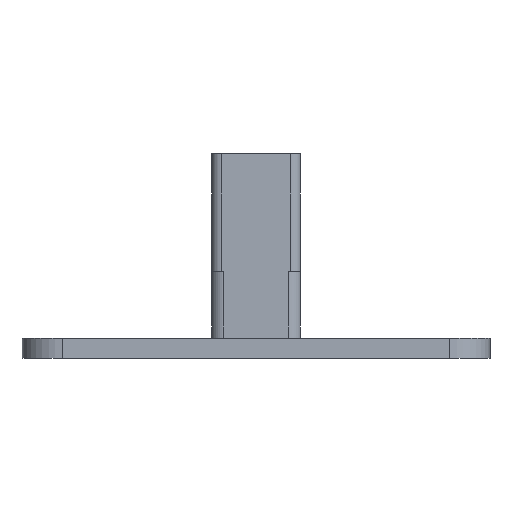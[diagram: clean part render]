
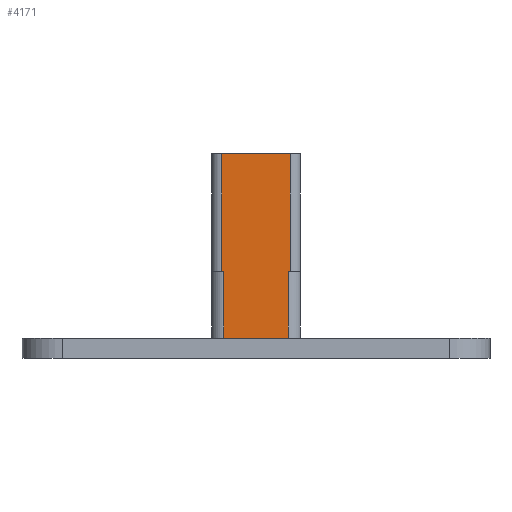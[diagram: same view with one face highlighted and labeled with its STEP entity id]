
A CAD part, left-side view. The second image highlights one B-rep face of the part: STEP entity #4171.
In plain terms, the highlighted planar face has unit normal (-1, 0, 0).
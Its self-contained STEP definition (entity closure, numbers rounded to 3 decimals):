
#44 = PLANE('',#45);
#45 = AXIS2_PLACEMENT_3D('',#46,#47,#48);
#46 = CARTESIAN_POINT('',(-128.,-58.,5.));
#47 = DIRECTION('',(0.,0.,1.));
#48 = DIRECTION('',(1.,0.,-0.));
#1351 = VERTEX_POINT('',#1352);
#1352 = CARTESIAN_POINT('',(-23.9,-8.,5.));
#1369 = CYLINDRICAL_SURFACE('',#1370,3.);
#1370 = AXIS2_PLACEMENT_3D('',#1371,#1372,#1373);
#1371 = CARTESIAN_POINT('',(-20.9,-8.,0.));
#1372 = DIRECTION('',(0.,0.,1.));
#1373 = DIRECTION('',(-1.,-0.,0.));
#1381 = EDGE_CURVE('',#1351,#1382,#1384,.T.);
#1382 = VERTEX_POINT('',#1383);
#1383 = CARTESIAN_POINT('',(-23.9,8.,5.));
#1384 = SURFACE_CURVE('',#1385,(#1389,#1395),.PCURVE_S1.);
#1385 = LINE('',#1386,#1387);
#1386 = CARTESIAN_POINT('',(-23.9,-34.5,5.));
#1387 = VECTOR('',#1388,1.);
#1388 = DIRECTION('',(-0.,1.,0.));
#1389 = PCURVE('',#44,#1390);
#1390 = DEFINITIONAL_REPRESENTATION('',(#1391),#1394);
#1391 = B_SPLINE_CURVE_WITH_KNOTS('',1,(#1392,#1393),.UNSPECIFIED.,.F.,
  .F.,(2,2),(26.5,42.5),.PIECEWISE_BEZIER_KNOTS.);
#1392 = CARTESIAN_POINT('',(104.1,50.));
#1393 = CARTESIAN_POINT('',(104.1,66.));
#1394 = ( GEOMETRIC_REPRESENTATION_CONTEXT(2) 
PARAMETRIC_REPRESENTATION_CONTEXT() REPRESENTATION_CONTEXT('2D SPACE',''
  ) );
#1395 = PCURVE('',#1396,#1401);
#1396 = PLANE('',#1397);
#1397 = AXIS2_PLACEMENT_3D('',#1398,#1399,#1400);
#1398 = CARTESIAN_POINT('',(-23.9,-11.,0.));
#1399 = DIRECTION('',(1.,0.,-0.));
#1400 = DIRECTION('',(0.,0.,1.));
#1401 = DEFINITIONAL_REPRESENTATION('',(#1402),#1406);
#1402 = LINE('',#1403,#1404);
#1403 = CARTESIAN_POINT('',(5.,23.5));
#1404 = VECTOR('',#1405,1.);
#1405 = DIRECTION('',(0.,-1.));
#1406 = ( GEOMETRIC_REPRESENTATION_CONTEXT(2) 
PARAMETRIC_REPRESENTATION_CONTEXT() REPRESENTATION_CONTEXT('2D SPACE',''
  ) );
#1425 = CYLINDRICAL_SURFACE('',#1426,3.);
#1426 = AXIS2_PLACEMENT_3D('',#1427,#1428,#1429);
#1427 = CARTESIAN_POINT('',(-20.9,8.,0.));
#1428 = DIRECTION('',(0.,0.,1.));
#1429 = DIRECTION('',(-1.,-0.,0.));
#2202 = PLANE('',#2203);
#2203 = AXIS2_PLACEMENT_3D('',#2204,#2205,#2206);
#2204 = CARTESIAN_POINT('',(-23.9,-11.,50.7));
#2205 = DIRECTION('',(0.,0.,1.));
#2206 = DIRECTION('',(1.,0.,0.));
#2600 = EDGE_CURVE('',#2601,#2603,#2605,.T.);
#2601 = VERTEX_POINT('',#2602);
#2602 = CARTESIAN_POINT('',(-23.9,-8.5,50.7));
#2603 = VERTEX_POINT('',#2604);
#2604 = CARTESIAN_POINT('',(-23.9,8.5,50.7));
#2605 = SURFACE_CURVE('',#2606,(#2610,#2617),.PCURVE_S1.);
#2606 = LINE('',#2607,#2608);
#2607 = CARTESIAN_POINT('',(-23.9,-11.,50.7));
#2608 = VECTOR('',#2609,1.);
#2609 = DIRECTION('',(0.,1.,0.));
#2610 = PCURVE('',#2202,#2611);
#2611 = DEFINITIONAL_REPRESENTATION('',(#2612),#2616);
#2612 = LINE('',#2613,#2614);
#2613 = CARTESIAN_POINT('',(0.,0.));
#2614 = VECTOR('',#2615,1.);
#2615 = DIRECTION('',(0.,1.));
#2616 = ( GEOMETRIC_REPRESENTATION_CONTEXT(2) 
PARAMETRIC_REPRESENTATION_CONTEXT() REPRESENTATION_CONTEXT('2D SPACE',''
  ) );
#2617 = PCURVE('',#1396,#2618);
#2618 = DEFINITIONAL_REPRESENTATION('',(#2619),#2623);
#2619 = LINE('',#2620,#2621);
#2620 = CARTESIAN_POINT('',(50.7,0.));
#2621 = VECTOR('',#2622,1.);
#2622 = DIRECTION('',(0.,-1.));
#2623 = ( GEOMETRIC_REPRESENTATION_CONTEXT(2) 
PARAMETRIC_REPRESENTATION_CONTEXT() REPRESENTATION_CONTEXT('2D SPACE',''
  ) );
#2642 = CYLINDRICAL_SURFACE('',#2643,2.5);
#2643 = AXIS2_PLACEMENT_3D('',#2644,#2645,#2646);
#2644 = CARTESIAN_POINT('',(-21.4,-8.5,21.5));
#2645 = DIRECTION('',(0.,0.,1.));
#2646 = DIRECTION('',(-1.,0.,0.));
#2793 = CYLINDRICAL_SURFACE('',#2794,2.5);
#2794 = AXIS2_PLACEMENT_3D('',#2795,#2796,#2797);
#2795 = CARTESIAN_POINT('',(-21.4,8.5,21.5));
#2796 = DIRECTION('',(0.,0.,1.));
#2797 = DIRECTION('',(-1.,0.,0.));
#2809 = VERTEX_POINT('',#2810);
#2810 = CARTESIAN_POINT('',(-23.9,-8.5,21.5));
#2827 = PLANE('',#2828);
#2828 = AXIS2_PLACEMENT_3D('',#2829,#2830,#2831);
#2829 = CARTESIAN_POINT('',(-23.9,-11.,21.5));
#2830 = DIRECTION('',(0.,0.,1.));
#2831 = DIRECTION('',(1.,0.,0.));
#2861 = EDGE_CURVE('',#2809,#2601,#2862,.T.);
#2862 = SURFACE_CURVE('',#2863,(#2867,#2874),.PCURVE_S1.);
#2863 = LINE('',#2864,#2865);
#2864 = CARTESIAN_POINT('',(-23.9,-8.5,21.5));
#2865 = VECTOR('',#2866,1.);
#2866 = DIRECTION('',(0.,0.,1.));
#2867 = PCURVE('',#2642,#2868);
#2868 = DEFINITIONAL_REPRESENTATION('',(#2869),#2873);
#2869 = LINE('',#2870,#2871);
#2870 = CARTESIAN_POINT('',(0.,0.));
#2871 = VECTOR('',#2872,1.);
#2872 = DIRECTION('',(0.,1.));
#2873 = ( GEOMETRIC_REPRESENTATION_CONTEXT(2) 
PARAMETRIC_REPRESENTATION_CONTEXT() REPRESENTATION_CONTEXT('2D SPACE',''
  ) );
#2874 = PCURVE('',#1396,#2875);
#2875 = DEFINITIONAL_REPRESENTATION('',(#2876),#2880);
#2876 = LINE('',#2877,#2878);
#2877 = CARTESIAN_POINT('',(21.5,-2.5));
#2878 = VECTOR('',#2879,1.);
#2879 = DIRECTION('',(1.,0.));
#2880 = ( GEOMETRIC_REPRESENTATION_CONTEXT(2) 
PARAMETRIC_REPRESENTATION_CONTEXT() REPRESENTATION_CONTEXT('2D SPACE',''
  ) );
#2885 = EDGE_CURVE('',#2809,#2886,#2888,.T.);
#2886 = VERTEX_POINT('',#2887);
#2887 = CARTESIAN_POINT('',(-23.9,-8.,21.5));
#2888 = SURFACE_CURVE('',#2889,(#2893,#2900),.PCURVE_S1.);
#2889 = LINE('',#2890,#2891);
#2890 = CARTESIAN_POINT('',(-23.9,-11.,21.5));
#2891 = VECTOR('',#2892,1.);
#2892 = DIRECTION('',(0.,1.,0.));
#2893 = PCURVE('',#2827,#2894);
#2894 = DEFINITIONAL_REPRESENTATION('',(#2895),#2899);
#2895 = LINE('',#2896,#2897);
#2896 = CARTESIAN_POINT('',(0.,0.));
#2897 = VECTOR('',#2898,1.);
#2898 = DIRECTION('',(0.,1.));
#2899 = ( GEOMETRIC_REPRESENTATION_CONTEXT(2) 
PARAMETRIC_REPRESENTATION_CONTEXT() REPRESENTATION_CONTEXT('2D SPACE',''
  ) );
#2900 = PCURVE('',#1396,#2901);
#2901 = DEFINITIONAL_REPRESENTATION('',(#2902),#2906);
#2902 = LINE('',#2903,#2904);
#2903 = CARTESIAN_POINT('',(21.5,0.));
#2904 = VECTOR('',#2905,1.);
#2905 = DIRECTION('',(0.,-1.));
#2906 = ( GEOMETRIC_REPRESENTATION_CONTEXT(2) 
PARAMETRIC_REPRESENTATION_CONTEXT() REPRESENTATION_CONTEXT('2D SPACE',''
  ) );
#3103 = VERTEX_POINT('',#3104);
#3104 = CARTESIAN_POINT('',(-23.9,8.5,21.5));
#3121 = PLANE('',#3122);
#3122 = AXIS2_PLACEMENT_3D('',#3123,#3124,#3125);
#3123 = CARTESIAN_POINT('',(-23.9,-11.,21.5));
#3124 = DIRECTION('',(0.,0.,1.));
#3125 = DIRECTION('',(1.,0.,0.));
#3159 = EDGE_CURVE('',#3103,#2603,#3160,.T.);
#3160 = SURFACE_CURVE('',#3161,(#3165,#3172),.PCURVE_S1.);
#3161 = LINE('',#3162,#3163);
#3162 = CARTESIAN_POINT('',(-23.9,8.5,21.5));
#3163 = VECTOR('',#3164,1.);
#3164 = DIRECTION('',(0.,0.,1.));
#3165 = PCURVE('',#2793,#3166);
#3166 = DEFINITIONAL_REPRESENTATION('',(#3167),#3171);
#3167 = LINE('',#3168,#3169);
#3168 = CARTESIAN_POINT('',(-0.,0.));
#3169 = VECTOR('',#3170,1.);
#3170 = DIRECTION('',(-0.,1.));
#3171 = ( GEOMETRIC_REPRESENTATION_CONTEXT(2) 
PARAMETRIC_REPRESENTATION_CONTEXT() REPRESENTATION_CONTEXT('2D SPACE',''
  ) );
#3172 = PCURVE('',#1396,#3173);
#3173 = DEFINITIONAL_REPRESENTATION('',(#3174),#3178);
#3174 = LINE('',#3175,#3176);
#3175 = CARTESIAN_POINT('',(21.5,-19.5));
#3176 = VECTOR('',#3177,1.);
#3177 = DIRECTION('',(1.,0.));
#3178 = ( GEOMETRIC_REPRESENTATION_CONTEXT(2) 
PARAMETRIC_REPRESENTATION_CONTEXT() REPRESENTATION_CONTEXT('2D SPACE',''
  ) );
#3183 = EDGE_CURVE('',#3184,#3103,#3186,.T.);
#3184 = VERTEX_POINT('',#3185);
#3185 = CARTESIAN_POINT('',(-23.9,8.,21.5));
#3186 = SURFACE_CURVE('',#3187,(#3191,#3198),.PCURVE_S1.);
#3187 = LINE('',#3188,#3189);
#3188 = CARTESIAN_POINT('',(-23.9,-11.,21.5));
#3189 = VECTOR('',#3190,1.);
#3190 = DIRECTION('',(0.,1.,0.));
#3191 = PCURVE('',#3121,#3192);
#3192 = DEFINITIONAL_REPRESENTATION('',(#3193),#3197);
#3193 = LINE('',#3194,#3195);
#3194 = CARTESIAN_POINT('',(0.,0.));
#3195 = VECTOR('',#3196,1.);
#3196 = DIRECTION('',(0.,1.));
#3197 = ( GEOMETRIC_REPRESENTATION_CONTEXT(2) 
PARAMETRIC_REPRESENTATION_CONTEXT() REPRESENTATION_CONTEXT('2D SPACE',''
  ) );
#3198 = PCURVE('',#1396,#3199);
#3199 = DEFINITIONAL_REPRESENTATION('',(#3200),#3204);
#3200 = LINE('',#3201,#3202);
#3201 = CARTESIAN_POINT('',(21.5,0.));
#3202 = VECTOR('',#3203,1.);
#3203 = DIRECTION('',(0.,-1.));
#3204 = ( GEOMETRIC_REPRESENTATION_CONTEXT(2) 
PARAMETRIC_REPRESENTATION_CONTEXT() REPRESENTATION_CONTEXT('2D SPACE',''
  ) );
#4113 = EDGE_CURVE('',#1382,#3184,#4114,.T.);
#4114 = SURFACE_CURVE('',#4115,(#4119,#4126),.PCURVE_S1.);
#4115 = LINE('',#4116,#4117);
#4116 = CARTESIAN_POINT('',(-23.9,8.,0.));
#4117 = VECTOR('',#4118,1.);
#4118 = DIRECTION('',(0.,0.,1.));
#4119 = PCURVE('',#1425,#4120);
#4120 = DEFINITIONAL_REPRESENTATION('',(#4121),#4125);
#4121 = LINE('',#4122,#4123);
#4122 = CARTESIAN_POINT('',(-0.,0.));
#4123 = VECTOR('',#4124,1.);
#4124 = DIRECTION('',(-0.,1.));
#4125 = ( GEOMETRIC_REPRESENTATION_CONTEXT(2) 
PARAMETRIC_REPRESENTATION_CONTEXT() REPRESENTATION_CONTEXT('2D SPACE',''
  ) );
#4126 = PCURVE('',#1396,#4127);
#4127 = DEFINITIONAL_REPRESENTATION('',(#4128),#4132);
#4128 = LINE('',#4129,#4130);
#4129 = CARTESIAN_POINT('',(0.,-19.));
#4130 = VECTOR('',#4131,1.);
#4131 = DIRECTION('',(1.,0.));
#4132 = ( GEOMETRIC_REPRESENTATION_CONTEXT(2) 
PARAMETRIC_REPRESENTATION_CONTEXT() REPRESENTATION_CONTEXT('2D SPACE',''
  ) );
#4171 = ADVANCED_FACE('',(#4172),#1396,.F.);
#4172 = FACE_BOUND('',#4173,.F.);
#4173 = EDGE_LOOP('',(#4174,#4175,#4176,#4177,#4178,#4179,#4180,#4201));
#4174 = ORIENTED_EDGE('',*,*,#4113,.T.);
#4175 = ORIENTED_EDGE('',*,*,#3183,.T.);
#4176 = ORIENTED_EDGE('',*,*,#3159,.T.);
#4177 = ORIENTED_EDGE('',*,*,#2600,.F.);
#4178 = ORIENTED_EDGE('',*,*,#2861,.F.);
#4179 = ORIENTED_EDGE('',*,*,#2885,.T.);
#4180 = ORIENTED_EDGE('',*,*,#4181,.F.);
#4181 = EDGE_CURVE('',#1351,#2886,#4182,.T.);
#4182 = SURFACE_CURVE('',#4183,(#4187,#4194),.PCURVE_S1.);
#4183 = LINE('',#4184,#4185);
#4184 = CARTESIAN_POINT('',(-23.9,-8.,0.));
#4185 = VECTOR('',#4186,1.);
#4186 = DIRECTION('',(0.,0.,1.));
#4187 = PCURVE('',#1396,#4188);
#4188 = DEFINITIONAL_REPRESENTATION('',(#4189),#4193);
#4189 = LINE('',#4190,#4191);
#4190 = CARTESIAN_POINT('',(0.,-3.));
#4191 = VECTOR('',#4192,1.);
#4192 = DIRECTION('',(1.,0.));
#4193 = ( GEOMETRIC_REPRESENTATION_CONTEXT(2) 
PARAMETRIC_REPRESENTATION_CONTEXT() REPRESENTATION_CONTEXT('2D SPACE',''
  ) );
#4194 = PCURVE('',#1369,#4195);
#4195 = DEFINITIONAL_REPRESENTATION('',(#4196),#4200);
#4196 = LINE('',#4197,#4198);
#4197 = CARTESIAN_POINT('',(0.,0.));
#4198 = VECTOR('',#4199,1.);
#4199 = DIRECTION('',(0.,1.));
#4200 = ( GEOMETRIC_REPRESENTATION_CONTEXT(2) 
PARAMETRIC_REPRESENTATION_CONTEXT() REPRESENTATION_CONTEXT('2D SPACE',''
  ) );
#4201 = ORIENTED_EDGE('',*,*,#1381,.T.);
